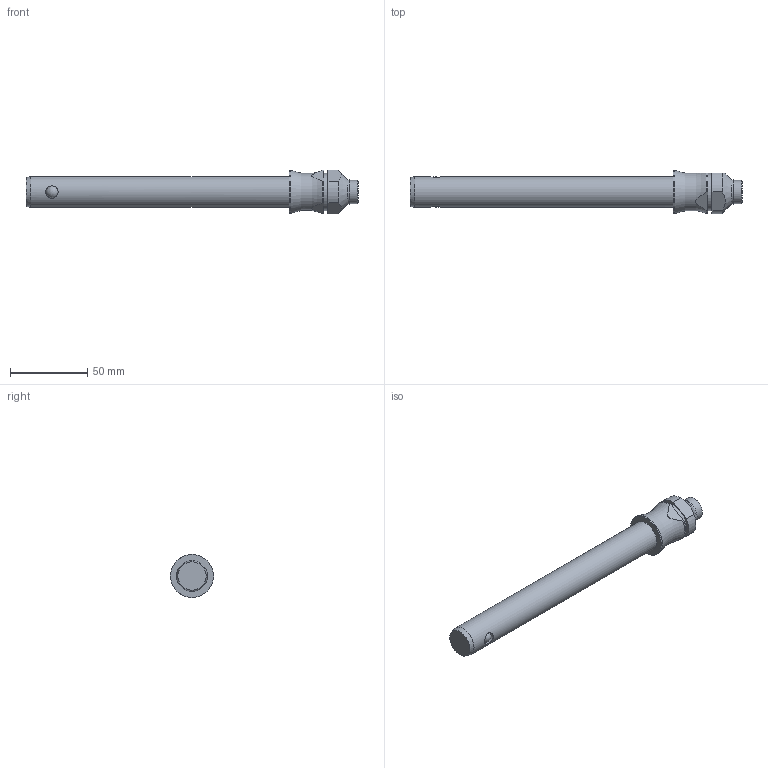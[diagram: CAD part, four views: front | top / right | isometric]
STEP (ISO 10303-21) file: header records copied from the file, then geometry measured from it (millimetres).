
FILE_DESCRIPTION( ( 'STEP AP203' ), '1' );
FILE_NAME( 'C:/Temp/Ganter_Step_05_03_2020/data/3_1/gn113_3/Stainless Steel-Ball lock pin GN 113.3-20-150 (activated).stp', '2020-03-12T08:19:08', ( 'License CC BY-ND 4.0' ), ( 'CADENAS' ), ' ', 'PARTsolutions', ' ' );
FILE_SCHEMA( ( 'CONFIG_CONTROL_DESIGN' ) );
Length unit declared in the file: millimetre
Products named in the file (1): _Stainless Steel-Ball lock pin GN 113.3-20-150 (activated)
Bounding box: 215.05 x 28 x 28 mm (x, y, z)
Volume: 73129.7 mm3; surface area: 15443 mm2
Topology: 1 solids, 1 shells, 31 faces, 74 edges, 46 vertices
Faces by surface type: cylinder 13, plane 11, cone 4, sphere 2, torus 1
Full cylindrical faces by diameter (mm): 8 x2, 15 x1, 16 x1, 20 x1, 24 x1, 28 x1
Entity records: 1054 total; most frequent: CARTESIAN_POINT 390, DIRECTION 134, ORIENTED_EDGE 104, AXIS2_PLACEMENT_3D 58, EDGE_CURVE 52, EDGE_LOOP 48, VERTEX_POINT 40, FACE_OUTER_BOUND 39
